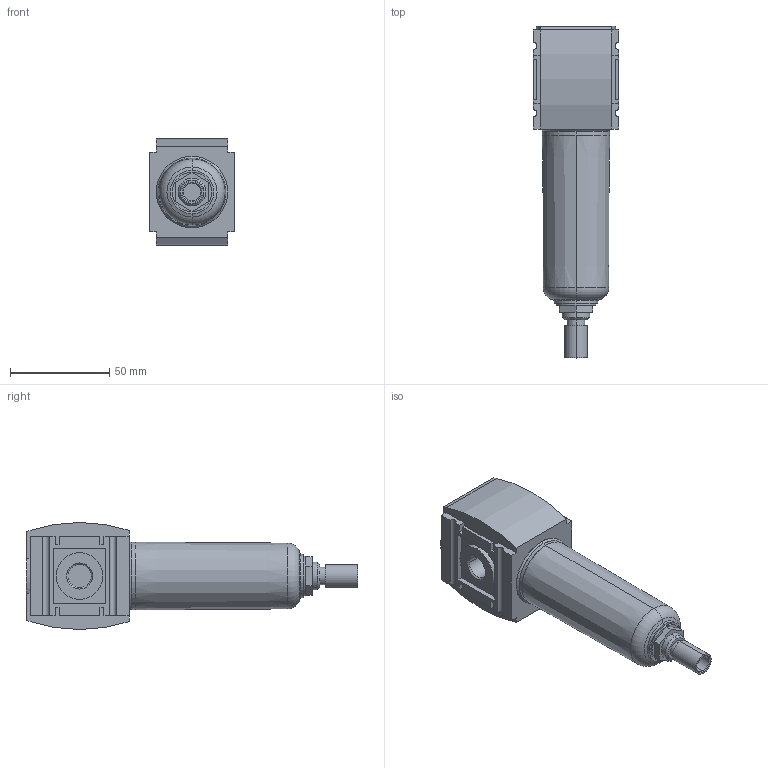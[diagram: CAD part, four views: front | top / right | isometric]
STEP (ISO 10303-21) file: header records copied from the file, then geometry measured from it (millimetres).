
FILE_DESCRIPTION((''),'2;1');
FILE_NAME('R412014615_ASM','2019-03-18T',('vol1hc'),(''),'CREO PARAMETRIC BY PTC INC, 2016260','CREO PARAMETRIC BY PTC INC, 2016260','');
FILE_SCHEMA(('CONFIG_CONTROL_DESIGN'));
Length unit declared in the file: millimetre
Products named in the file (3): R412014615; AS1_RES_FILTER_FULLY; R412014615_ASM
Assembly tree (2 placements, depth 2):
  R412014615_ASM
    R412014615
    AS1_RES_FILTER_FULLY
Bounding box: 43 x 167.5 x 54 mm (x, y, z)
Volume: 183084.3 mm3; surface area: 31611.7 mm2
Topology: 2 solids, 2 shells, 162 faces, 400 edges, 260 vertices
Faces by surface type: plane 98, cylinder 46, cone 16, torus 2
Entity records: 4883 total; most frequent: DIRECTION 852, CARTESIAN_POINT 827, ORIENTED_EDGE 800, EDGE_CURVE 400, AXIS2_PLACEMENT_3D 285, VECTOR 282, LINE 282, VERTEX_POINT 260
